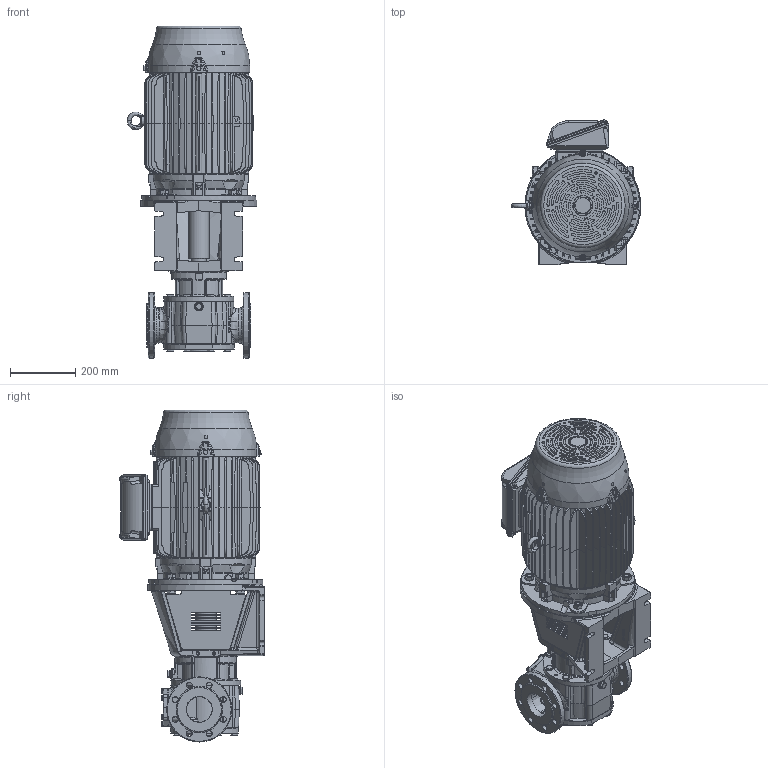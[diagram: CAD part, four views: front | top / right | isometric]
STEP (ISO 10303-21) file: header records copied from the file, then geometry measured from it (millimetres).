
FILE_DESCRIPTION(/* description */ (''),/* implementation_level */ '2;1');
FILE_NAME(/* name */ 'C:\V\JPP\Designs\GEAR PUMPS\PRODUCT ENGINEERING\EUROPE\TG BLOC\TG BLOC_58-80_G2_O_NRV-_160L-STEP.stp',/* time_stamp */ '2021-03-19T10:19:28+01:00',/* author */ ('A77THR'),/* organization */ (''),/* preprocessor_version */ 'ST-DEVELOPER v18.1',/* originating_system */ 'Autodesk Inventor 2020',/* authorisation */ '');
FILE_SCHEMA (('AUTOMOTIVE_DESIGN { 1 0 10303 214 3 1 1 }'));
Length unit declared in the file: millimetre
Products named in the file (1): TG BLOC_58-80_G2_O_NRV-_160L
Bounding box: 397.99 x 444.6 x 1019.4 mm (x, y, z)
Volume: 51596141 mm3; surface area: 2576492.6 mm2
Topology: 1 solids, 1 shells, 4524 faces, 11903 edges, 7547 vertices
Faces by surface type: plane 1906, cylinder 1018, bspline 877, cone 575, torus 109, sphere 39
Full cylindrical faces by diameter (mm): 4 x1, 4.5 x8, 4.917 x8, 5 x4, 6.3 x1, 6.647 x1, 7 x4, 7.323 x8, 7.5 x3, 8 x17, 9 x8, 9.4 x1, 10 x8, 10.106 x7, 10.2 x2, 11.053 x4, 11.4 x8, 11.445 x2, 11.6 x7, 12 x4, 12.5 x3, 13 x5, 13.157 x2, 13.2 x2, 14 x8, 15.011 x2, 16 x1, 17.2 x20, 18 x18, 19 x2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
Entity records: 180703 total; most frequent: CARTESIAN_POINT 71014, ORIENTED_EDGE 23640, DIRECTION 20242, EDGE_CURVE 11820, AXIS2_PLACEMENT_3D 7746, VERTEX_POINT 7543, EDGE_LOOP 4913, LINE 4750
